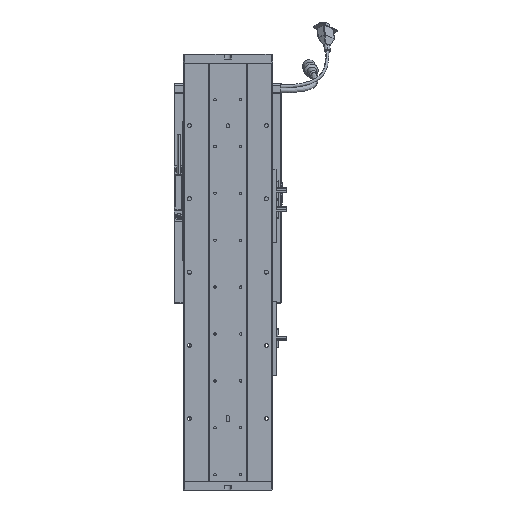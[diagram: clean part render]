
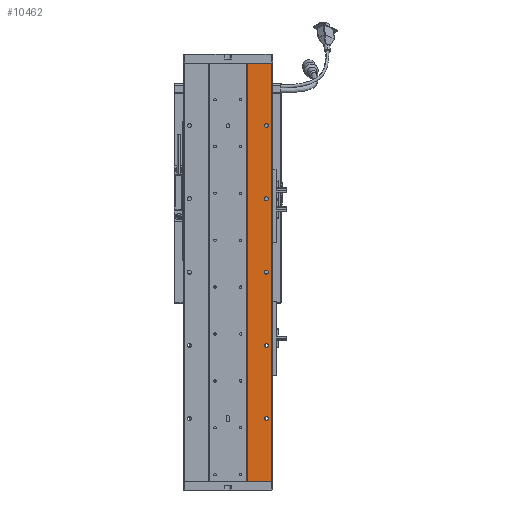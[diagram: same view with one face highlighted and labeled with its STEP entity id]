
A CAD part, front view. The second image highlights one B-rep face of the part: STEP entity #10462.
In plain terms, the highlighted planar face has unit normal (0, -1, 0).
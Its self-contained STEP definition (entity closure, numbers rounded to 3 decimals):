
#198 = DIRECTION ( 'NONE',  ( 0., 1., 0. ) ) ;
#613 = CIRCLE ( 'NONE', #70239, 2.75 ) ;
#2009 = CARTESIAN_POINT ( 'NONE',  ( 207.625, 76.768, 182.75 ) ) ;
#2026 = ORIENTED_EDGE ( 'NONE', *, *, #15716, .F. ) ;
#2068 = DIRECTION ( 'NONE',  ( 0., 0., 1. ) ) ;
#3342 = CARTESIAN_POINT ( 'NONE',  ( 214.532, 76.768, 571. ) ) ;
#3624 = CIRCLE ( 'NONE', #10721, 2.75 ) ;
#3807 = ORIENTED_EDGE ( 'NONE', *, *, #55780, .T. ) ;
#3846 = FACE_OUTER_BOUND ( 'NONE', #38759, .T. ) ;
#4057 = DIRECTION ( 'NONE',  ( 0., 0., 1. ) ) ;
#5776 = EDGE_CURVE ( 'NONE', #33735, #7411, #3624, .T. ) ;
#6019 = CARTESIAN_POINT ( 'NONE',  ( 181.625, 76.768, 571. ) ) ;
#6060 = CARTESIAN_POINT ( 'NONE',  ( 207.625, 76.768, 188.25 ) ) ;
#7074 = EDGE_CURVE ( 'NONE', #12655, #47868, #41349, .T. ) ;
#7411 = VERTEX_POINT ( 'NONE', #63144 ) ;
#7925 = LINE ( 'NONE', #12687, #38733 ) ;
#8734 = AXIS2_PLACEMENT_3D ( 'NONE', #22930, #67922, #56908 ) ;
#9418 = AXIS2_PLACEMENT_3D ( 'NONE', #42940, #65661, #43921 ) ;
#9692 = DIRECTION ( 'NONE',  ( 0., 1., 0. ) ) ;
#9789 = CARTESIAN_POINT ( 'NONE',  ( 207.625, 76.768, 185.5 ) ) ;
#10462 = ADVANCED_FACE ( 'NONE', ( #59323, #29433, #46224, #70637, #24031, #3846 ), #11903, .F. ) ;
#10721 = AXIS2_PLACEMENT_3D ( 'NONE', #30052, #58796, #2068 ) ;
#11423 = VECTOR ( 'NONE', #42200, 1000. ) ;
#11903 = PLANE ( 'NONE',  #62641 ) ;
#11916 = AXIS2_PLACEMENT_3D ( 'NONE', #41484, #54243, #26152 ) ;
#12024 = CARTESIAN_POINT ( 'NONE',  ( 207.625, 76.768, 282.75 ) ) ;
#12283 = VERTEX_POINT ( 'NONE', #27194 ) ;
#12655 = VERTEX_POINT ( 'NONE', #3342 ) ;
#12687 = CARTESIAN_POINT ( 'NONE',  ( 181.625, 76.768, 571. ) ) ;
#13885 = VERTEX_POINT ( 'NONE', #58942 ) ;
#14288 = CIRCLE ( 'NONE', #69600, 2.75 ) ;
#14666 = ORIENTED_EDGE ( 'NONE', *, *, #24623, .T. ) ;
#15306 = ORIENTED_EDGE ( 'NONE', *, *, #70299, .T. ) ;
#15716 = EDGE_CURVE ( 'NONE', #12655, #44365, #44692, .T. ) ;
#16140 = ORIENTED_EDGE ( 'NONE', *, *, #60149, .F. ) ;
#17172 = EDGE_LOOP ( 'NONE', ( #51220, #54462 ) ) ;
#17625 = VECTOR ( 'NONE', #47711, 1000. ) ;
#17797 = ORIENTED_EDGE ( 'NONE', *, *, #62906, .T. ) ;
#18138 = DIRECTION ( 'NONE',  ( 0., 0., -1. ) ) ;
#18611 = EDGE_CURVE ( 'NONE', #19678, #12283, #14288, .T. ) ;
#19482 = CARTESIAN_POINT ( 'NONE',  ( 84.971, 76.768, 571. ) ) ;
#19678 = VERTEX_POINT ( 'NONE', #12024 ) ;
#20327 = ORIENTED_EDGE ( 'NONE', *, *, #52661, .T. ) ;
#20540 = DIRECTION ( 'NONE',  ( 0., 1., 0. ) ) ;
#22278 = VERTEX_POINT ( 'NONE', #6060 ) ;
#22821 = EDGE_CURVE ( 'NONE', #7411, #33735, #67626, .T. ) ;
#22930 = CARTESIAN_POINT ( 'NONE',  ( 207.625, 76.768, 85.5 ) ) ;
#23409 = VERTEX_POINT ( 'NONE', #2009 ) ;
#24031 = FACE_BOUND ( 'NONE', #27298, .T. ) ;
#24623 = EDGE_CURVE ( 'NONE', #56562, #63673, #31359, .T. ) ;
#25865 = CIRCLE ( 'NONE', #11916, 2.75 ) ;
#25940 = AXIS2_PLACEMENT_3D ( 'NONE', #45937, #198, #4057 ) ;
#26051 = AXIS2_PLACEMENT_3D ( 'NONE', #54914, #9692, #60529 ) ;
#26152 = DIRECTION ( 'NONE',  ( 0., 0., 1. ) ) ;
#27194 = CARTESIAN_POINT ( 'NONE',  ( 207.625, 76.768, 288.25 ) ) ;
#27298 = EDGE_LOOP ( 'NONE', ( #45474, #29684 ) ) ;
#28236 = EDGE_LOOP ( 'NONE', ( #49353, #14666 ) ) ;
#29433 = FACE_BOUND ( 'NONE', #64116, .T. ) ;
#29655 = DIRECTION ( 'NONE',  ( 0., 1., 0. ) ) ;
#29684 = ORIENTED_EDGE ( 'NONE', *, *, #18611, .T. ) ;
#30052 = CARTESIAN_POINT ( 'NONE',  ( 207.625, 76.768, 485.5 ) ) ;
#31359 = CIRCLE ( 'NONE', #26051, 2.75 ) ;
#32833 = AXIS2_PLACEMENT_3D ( 'NONE', #63033, #29655, #35093 ) ;
#33559 = CIRCLE ( 'NONE', #61248, 2.75 ) ;
#33735 = VERTEX_POINT ( 'NONE', #40074 ) ;
#33919 = DIRECTION ( 'NONE',  ( 0., 0., 1. ) ) ;
#35008 = DIRECTION ( 'NONE',  ( 0., 1., 0. ) ) ;
#35093 = DIRECTION ( 'NONE',  ( 0., 0., 1. ) ) ;
#36020 = CARTESIAN_POINT ( 'NONE',  ( 207.625, 76.768, 88.25 ) ) ;
#37831 = DIRECTION ( 'NONE',  ( 0., 0., 1. ) ) ;
#38733 = VECTOR ( 'NONE', #57144, 1000. ) ;
#38759 = EDGE_LOOP ( 'NONE', ( #3807, #16140, #2026, #41869 ) ) ;
#40074 = CARTESIAN_POINT ( 'NONE',  ( 207.625, 76.768, 488.25 ) ) ;
#40193 = DIRECTION ( 'NONE',  ( 0., 0., 1. ) ) ;
#40991 = EDGE_CURVE ( 'NONE', #12283, #19678, #72573, .T. ) ;
#41349 = LINE ( 'NONE', #19482, #11423 ) ;
#41423 = CARTESIAN_POINT ( 'NONE',  ( 207.625, 76.768, 285.5 ) ) ;
#41484 = CARTESIAN_POINT ( 'NONE',  ( 207.625, 76.768, 385.5 ) ) ;
#41869 = ORIENTED_EDGE ( 'NONE', *, *, #7074, .T. ) ;
#42200 = DIRECTION ( 'NONE',  ( -1., 0., 0. ) ) ;
#42591 = CARTESIAN_POINT ( 'NONE',  ( 214.532, 76.768, 0. ) ) ;
#42639 = CARTESIAN_POINT ( 'NONE',  ( 207.625, 76.768, 82.75 ) ) ;
#42940 = CARTESIAN_POINT ( 'NONE',  ( 207.625, 76.768, 285.5 ) ) ;
#43921 = DIRECTION ( 'NONE',  ( 0., 0., 1. ) ) ;
#44365 = VERTEX_POINT ( 'NONE', #42591 ) ;
#44692 = LINE ( 'NONE', #51869, #67417 ) ;
#45474 = ORIENTED_EDGE ( 'NONE', *, *, #40991, .T. ) ;
#45937 = CARTESIAN_POINT ( 'NONE',  ( 207.625, 76.768, 485.5 ) ) ;
#46224 = FACE_BOUND ( 'NONE', #28236, .T. ) ;
#46265 = VERTEX_POINT ( 'NONE', #49814 ) ;
#47711 = DIRECTION ( 'NONE',  ( -1., 0., 0. ) ) ;
#47868 = VERTEX_POINT ( 'NONE', #6019 ) ;
#49353 = ORIENTED_EDGE ( 'NONE', *, *, #55734, .T. ) ;
#49814 = CARTESIAN_POINT ( 'NONE',  ( 207.625, 76.768, 388.25 ) ) ;
#50155 = CIRCLE ( 'NONE', #8734, 2.75 ) ;
#51092 = CARTESIAN_POINT ( 'NONE',  ( 181.625, 76.768, 0. ) ) ;
#51220 = ORIENTED_EDGE ( 'NONE', *, *, #5776, .T. ) ;
#51869 = CARTESIAN_POINT ( 'NONE',  ( 214.532, 76.768, 571. ) ) ;
#52661 = EDGE_CURVE ( 'NONE', #13885, #46265, #25865, .T. ) ;
#54243 = DIRECTION ( 'NONE',  ( 0., 1., 0. ) ) ;
#54462 = ORIENTED_EDGE ( 'NONE', *, *, #22821, .T. ) ;
#54914 = CARTESIAN_POINT ( 'NONE',  ( 207.625, 76.768, 85.5 ) ) ;
#55734 = EDGE_CURVE ( 'NONE', #63673, #56562, #50155, .T. ) ;
#55780 = EDGE_CURVE ( 'NONE', #47868, #60370, #7925, .T. ) ;
#56562 = VERTEX_POINT ( 'NONE', #42639 ) ;
#56908 = DIRECTION ( 'NONE',  ( 0., 0., 1. ) ) ;
#57076 = CARTESIAN_POINT ( 'NONE',  ( 84.971, 76.768, 0. ) ) ;
#57144 = DIRECTION ( 'NONE',  ( 0., 0., -1. ) ) ;
#57310 = DIRECTION ( 'NONE',  ( 0., 1., 0. ) ) ;
#58796 = DIRECTION ( 'NONE',  ( 0., 1., 0. ) ) ;
#58942 = CARTESIAN_POINT ( 'NONE',  ( 207.625, 76.768, 382.75 ) ) ;
#59323 = FACE_BOUND ( 'NONE', #17172, .T. ) ;
#60149 = EDGE_CURVE ( 'NONE', #44365, #60370, #64191, .T. ) ;
#60370 = VERTEX_POINT ( 'NONE', #51092 ) ;
#60529 = DIRECTION ( 'NONE',  ( 0., 0., 1. ) ) ;
#61248 = AXIS2_PLACEMENT_3D ( 'NONE', #9789, #20540, #37831 ) ;
#61636 = CARTESIAN_POINT ( 'NONE',  ( 207.625, 76.768, 185.5 ) ) ;
#62641 = AXIS2_PLACEMENT_3D ( 'NONE', #57076, #57310, #40193 ) ;
#62906 = EDGE_CURVE ( 'NONE', #23409, #22278, #613, .T. ) ;
#63033 = CARTESIAN_POINT ( 'NONE',  ( 207.625, 76.768, 385.5 ) ) ;
#63144 = CARTESIAN_POINT ( 'NONE',  ( 207.625, 76.768, 482.75 ) ) ;
#63673 = VERTEX_POINT ( 'NONE', #36020 ) ;
#63768 = EDGE_LOOP ( 'NONE', ( #15306, #17797 ) ) ;
#63902 = DIRECTION ( 'NONE',  ( 0., 0., 1. ) ) ;
#64116 = EDGE_LOOP ( 'NONE', ( #71074, #20327 ) ) ;
#64191 = LINE ( 'NONE', #64294, #17625 ) ;
#64294 = CARTESIAN_POINT ( 'NONE',  ( 0., 76.768, 0. ) ) ;
#64637 = CIRCLE ( 'NONE', #32833, 2.75 ) ;
#65661 = DIRECTION ( 'NONE',  ( 0., 1., 0. ) ) ;
#66476 = EDGE_CURVE ( 'NONE', #46265, #13885, #64637, .T. ) ;
#66781 = DIRECTION ( 'NONE',  ( 0., 1., 0. ) ) ;
#67417 = VECTOR ( 'NONE', #18138, 1000. ) ;
#67626 = CIRCLE ( 'NONE', #25940, 2.75 ) ;
#67922 = DIRECTION ( 'NONE',  ( 0., 1., 0. ) ) ;
#69600 = AXIS2_PLACEMENT_3D ( 'NONE', #41423, #35008, #63902 ) ;
#70239 = AXIS2_PLACEMENT_3D ( 'NONE', #61636, #66781, #33919 ) ;
#70299 = EDGE_CURVE ( 'NONE', #22278, #23409, #33559, .T. ) ;
#70637 = FACE_BOUND ( 'NONE', #63768, .T. ) ;
#71074 = ORIENTED_EDGE ( 'NONE', *, *, #66476, .T. ) ;
#72573 = CIRCLE ( 'NONE', #9418, 2.75 ) ;
